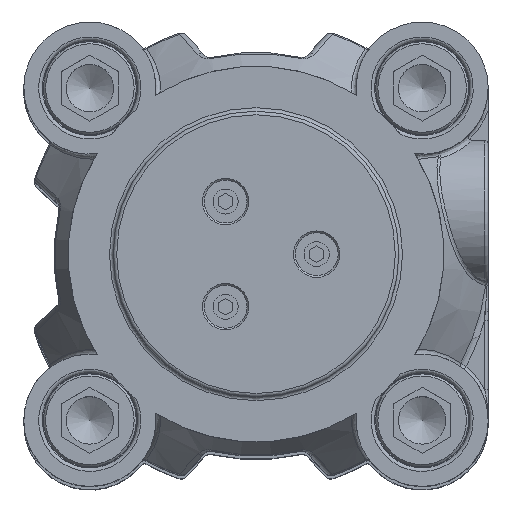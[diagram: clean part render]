
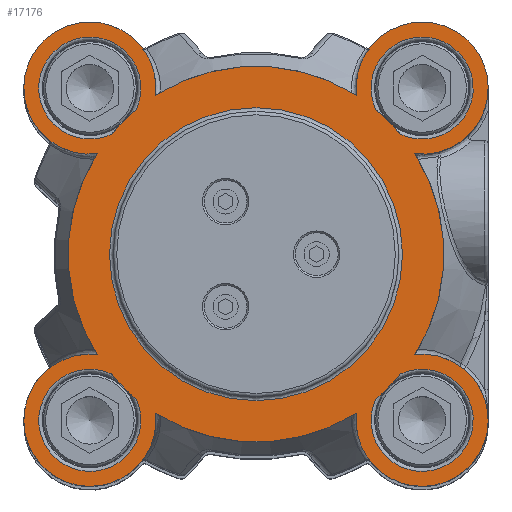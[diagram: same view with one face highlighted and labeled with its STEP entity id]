
A CAD part, top view. The second image highlights one B-rep face of the part: STEP entity #17176.
In plain terms, the highlighted planar face has unit normal (0, 0, 1) as drawn and (0, 0, -1) by its records, which use the part's own axes.
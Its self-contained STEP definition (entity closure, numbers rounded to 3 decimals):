
#1927=CIRCLE('',#24926,26.3);
#1929=CIRCLE('',#24929,26.3);
#1930=CIRCLE('',#24931,26.3);
#1931=CIRCLE('',#24933,26.3);
#1933=CIRCLE('',#24936,26.3);
#1934=CIRCLE('',#24938,26.3);
#1936=CIRCLE('',#24941,26.3);
#1938=CIRCLE('',#24944,26.3);
#1950=CIRCLE('',#24960,7.15);
#1951=CIRCLE('',#24962,9.25);
#1968=CIRCLE('',#24985,9.25);
#1971=CIRCLE('',#24989,7.15);
#1972=CIRCLE('',#24991,20.5);
#1973=CIRCLE('',#24992,20.5);
#1974=CIRCLE('',#24993,7.15);
#1975=CIRCLE('',#24994,7.15);
#1976=CIRCLE('',#24995,9.25);
#1977=CIRCLE('',#24996,9.25);
#5606=ORIENTED_EDGE('',*,*,#8987,.F.);
#5607=ORIENTED_EDGE('',*,*,#8930,.T.);
#5608=ORIENTED_EDGE('',*,*,#9033,.F.);
#5609=ORIENTED_EDGE('',*,*,#8942,.T.);
#5610=ORIENTED_EDGE('',*,*,#9034,.F.);
#5611=ORIENTED_EDGE('',*,*,#9035,.F.);
#5612=ORIENTED_EDGE('',*,*,#9036,.F.);
#5613=ORIENTED_EDGE('',*,*,#8950,.T.);
#5614=ORIENTED_EDGE('',*,*,#9037,.F.);
#5615=ORIENTED_EDGE('',*,*,#8962,.T.);
#5616=ORIENTED_EDGE('',*,*,#8972,.T.);
#5617=ORIENTED_EDGE('',*,*,#9038,.F.);
#5618=ORIENTED_EDGE('',*,*,#8936,.T.);
#5619=ORIENTED_EDGE('',*,*,#9039,.F.);
#5620=ORIENTED_EDGE('',*,*,#8944,.T.);
#5621=ORIENTED_EDGE('',*,*,#9023,.F.);
#5622=ORIENTED_EDGE('',*,*,#8956,.T.);
#5623=ORIENTED_EDGE('',*,*,#8988,.F.);
#8930=EDGE_CURVE('',#10911,#10915,#1927,.T.);
#8936=EDGE_CURVE('',#10917,#10921,#1929,.T.);
#8942=EDGE_CURVE('',#10923,#10927,#1930,.T.);
#8944=EDGE_CURVE('',#10930,#10928,#1931,.T.);
#8950=EDGE_CURVE('',#10936,#10934,#1933,.T.);
#8956=EDGE_CURVE('',#10942,#10940,#1934,.T.);
#8962=EDGE_CURVE('',#10948,#10946,#1936,.T.);
#8972=EDGE_CURVE('',#10953,#10957,#1938,.T.);
#8987=EDGE_CURVE('',#10911,#10915,#1950,.T.);
#8988=EDGE_CURVE('',#10953,#10940,#1951,.T.);
#9023=EDGE_CURVE('',#10942,#10928,#1968,.T.);
#9033=EDGE_CURVE('',#10923,#10927,#1971,.T.);
#9034=EDGE_CURVE('',#10997,#10998,#1972,.T.);
#9035=EDGE_CURVE('',#10998,#10997,#1973,.T.);
#9036=EDGE_CURVE('',#10936,#10934,#1974,.T.);
#9037=EDGE_CURVE('',#10948,#10946,#1975,.T.);
#9038=EDGE_CURVE('',#10917,#10957,#1976,.T.);
#9039=EDGE_CURVE('',#10930,#10921,#1977,.T.);
#10911=VERTEX_POINT('',#36167);
#10915=VERTEX_POINT('',#36200);
#10917=VERTEX_POINT('',#36205);
#10921=VERTEX_POINT('',#36232);
#10923=VERTEX_POINT('',#36246);
#10927=VERTEX_POINT('',#36279);
#10928=VERTEX_POINT('',#36283);
#10930=VERTEX_POINT('',#36286);
#10934=VERTEX_POINT('',#36324);
#10936=VERTEX_POINT('',#36327);
#10940=VERTEX_POINT('',#36362);
#10942=VERTEX_POINT('',#36365);
#10946=VERTEX_POINT('',#36403);
#10948=VERTEX_POINT('',#36406);
#10953=VERTEX_POINT('',#36442);
#10957=VERTEX_POINT('',#36469);
#10997=VERTEX_POINT('',#36898);
#10998=VERTEX_POINT('',#36899);
#14470=EDGE_LOOP('',(#5606,#5607));
#14471=EDGE_LOOP('',(#5608,#5609));
#14472=EDGE_LOOP('',(#5610,#5611));
#14473=EDGE_LOOP('',(#5612,#5613));
#14474=EDGE_LOOP('',(#5614,#5615));
#14475=EDGE_LOOP('',(#5616,#5617,#5618,#5619,#5620,#5621,#5622,#5623));
#15674=FACE_BOUND('',#14470,.T.);
#15675=FACE_BOUND('',#14471,.T.);
#15676=FACE_BOUND('',#14472,.T.);
#15677=FACE_BOUND('',#14473,.T.);
#15678=FACE_BOUND('',#14474,.T.);
#15679=FACE_BOUND('',#14475,.T.);
#16328=PLANE('',#24990);
#17176=ADVANCED_FACE('',(#15674,#15675,#15676,#15677,#15678,#15679),#16328,
 .T.);
#24926=AXIS2_PLACEMENT_3D('',#36201,#28738,#28739);
#24929=AXIS2_PLACEMENT_3D('',#36233,#28746,#28747);
#24931=AXIS2_PLACEMENT_3D('',#36280,#28752,#28753);
#24933=AXIS2_PLACEMENT_3D('',#36285,#28757,#28758);
#24936=AXIS2_PLACEMENT_3D('',#36326,#28764,#28765);
#24938=AXIS2_PLACEMENT_3D('',#36364,#28771,#28772);
#24941=AXIS2_PLACEMENT_3D('',#36405,#28778,#28779);
#24944=AXIS2_PLACEMENT_3D('',#36470,#28788,#28789);
#24960=AXIS2_PLACEMENT_3D('',#36551,#28820,#28821);
#24962=AXIS2_PLACEMENT_3D('',#36553,#28824,#28825);
#24985=AXIS2_PLACEMENT_3D('',#36808,#28872,#28873);
#24989=AXIS2_PLACEMENT_3D('',#36895,#28882,#28883);
#24990=AXIS2_PLACEMENT_3D('',#36896,#28884,#28885);
#24991=AXIS2_PLACEMENT_3D('',#36897,#28886,#28887);
#24992=AXIS2_PLACEMENT_3D('',#36900,#28888,#28889);
#24993=AXIS2_PLACEMENT_3D('',#36901,#28890,#28891);
#24994=AXIS2_PLACEMENT_3D('',#36902,#28892,#28893);
#24995=AXIS2_PLACEMENT_3D('',#36903,#28894,#28895);
#24996=AXIS2_PLACEMENT_3D('',#36904,#28896,#28897);
#28738=DIRECTION('',(0.,0.,-1.));
#28739=DIRECTION('',(1.,0.,0.));
#28746=DIRECTION('',(0.,0.,-1.));
#28747=DIRECTION('',(1.,0.,0.));
#28752=DIRECTION('',(0.,0.,-1.));
#28753=DIRECTION('',(1.,0.,0.));
#28757=DIRECTION('',(0.,0.,-1.));
#28758=DIRECTION('',(1.,0.,0.));
#28764=DIRECTION('',(0.,0.,-1.));
#28765=DIRECTION('',(1.,0.,0.));
#28771=DIRECTION('',(0.,0.,-1.));
#28772=DIRECTION('',(1.,0.,0.));
#28778=DIRECTION('',(0.,0.,-1.));
#28779=DIRECTION('',(1.,0.,0.));
#28788=DIRECTION('',(0.,0.,-1.));
#28789=DIRECTION('',(1.,0.,0.));
#28820=DIRECTION('',(0.,0.,-1.));
#28821=DIRECTION('',(-1.,0.,0.));
#28824=DIRECTION('',(0.,0.,1.));
#28825=DIRECTION('',(1.,0.,0.));
#28872=DIRECTION('',(0.,0.,1.));
#28873=DIRECTION('',(1.,0.,0.));
#28882=DIRECTION('',(0.,0.,-1.));
#28883=DIRECTION('',(-1.,0.,0.));
#28884=DIRECTION('',(0.,0.,-1.));
#28885=DIRECTION('',(1.,0.,0.));
#28886=DIRECTION('',(0.,0.,-1.));
#28887=DIRECTION('',(-1.,0.,0.));
#28888=DIRECTION('',(0.,0.,-1.));
#28889=DIRECTION('',(-1.,0.,0.));
#28890=DIRECTION('',(0.,0.,-1.));
#28891=DIRECTION('',(-1.,0.,0.));
#28892=DIRECTION('',(0.,0.,-1.));
#28893=DIRECTION('',(-1.,0.,0.));
#28894=DIRECTION('',(0.,0.,1.));
#28895=DIRECTION('',(1.,0.,0.));
#28896=DIRECTION('',(0.,0.,1.));
#28897=DIRECTION('',(1.,0.,0.));
#36167=CARTESIAN_POINT('',(-20.279,16.746,-117.));
#36200=CARTESIAN_POINT('',(-16.746,20.279,-117.));
#36201=CARTESIAN_POINT('',(0.,0.,
-117.));
#36205=CARTESIAN_POINT('',(-14.057,22.228,-117.));
#36232=CARTESIAN_POINT('',(14.057,22.228,-117.));
#36233=CARTESIAN_POINT('',(0.,0.,
-117.));
#36246=CARTESIAN_POINT('',(16.746,20.279,-117.));
#36279=CARTESIAN_POINT('',(20.279,16.746,-117.));
#36280=CARTESIAN_POINT('',(0.,0.,
-117.));
#36283=CARTESIAN_POINT('',(22.228,-14.057,-117.));
#36285=CARTESIAN_POINT('',(0.,0.,
-117.));
#36286=CARTESIAN_POINT('',(22.228,14.057,-117.));
#36324=CARTESIAN_POINT('',(16.746,-20.279,-117.));
#36326=CARTESIAN_POINT('',(0.,0.,
-117.));
#36327=CARTESIAN_POINT('',(20.279,-16.746,-117.));
#36362=CARTESIAN_POINT('',(-14.057,-22.228,-117.));
#36364=CARTESIAN_POINT('',(0.,0.,
-117.));
#36365=CARTESIAN_POINT('',(14.057,-22.228,-117.));
#36403=CARTESIAN_POINT('',(-20.279,-16.746,-117.));
#36405=CARTESIAN_POINT('',(0.,0.,
-117.));
#36406=CARTESIAN_POINT('',(-16.746,-20.279,-117.));
#36442=CARTESIAN_POINT('',(-22.228,-14.057,-117.));
#36469=CARTESIAN_POINT('',(-22.228,14.057,-117.));
#36470=CARTESIAN_POINT('',(0.,0.,
-117.));
#36551=CARTESIAN_POINT('',(-23.25,23.25,-117.));
#36553=CARTESIAN_POINT('',(-23.25,-23.25,-117.));
#36808=CARTESIAN_POINT('',(23.25,-23.25,-117.));
#36895=CARTESIAN_POINT('',(23.25,23.25,-117.));
#36896=CARTESIAN_POINT('',(22.25,0.,-117.));
#36897=CARTESIAN_POINT('',(0.,0.,
-117.));
#36898=CARTESIAN_POINT('',(20.5,0.,-117.));
#36899=CARTESIAN_POINT('',(-20.5,0.,-117.));
#36900=CARTESIAN_POINT('',(0.,0.,
-117.));
#36901=CARTESIAN_POINT('',(23.25,-23.25,-117.));
#36902=CARTESIAN_POINT('',(-23.25,-23.25,-117.));
#36903=CARTESIAN_POINT('',(-23.25,23.25,-117.));
#36904=CARTESIAN_POINT('',(23.25,23.25,-117.));
